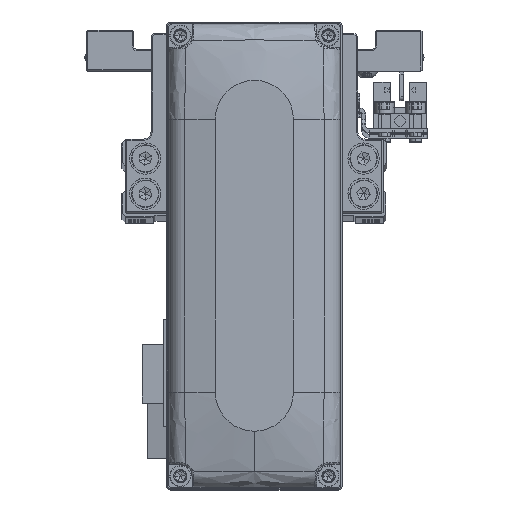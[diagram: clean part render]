
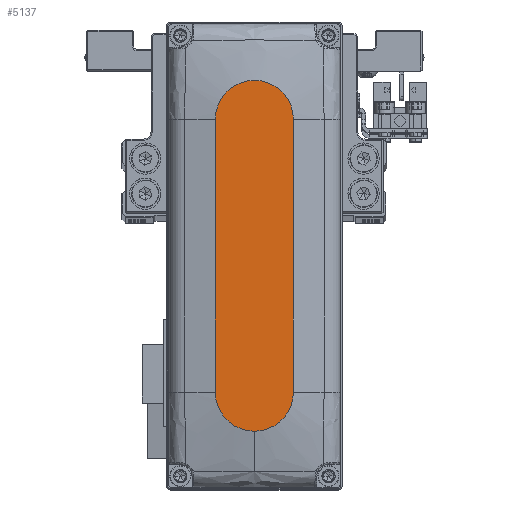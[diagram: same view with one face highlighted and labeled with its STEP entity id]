
A CAD part, top view. The second image highlights one B-rep face of the part: STEP entity #5137.
In plain terms, the highlighted planar face has unit normal (0, 0, 1).
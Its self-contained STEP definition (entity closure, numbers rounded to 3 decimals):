
#374 = CARTESIAN_POINT ( 'NONE',  ( 45., 0., 28. ) ) ;
#475 = CARTESIAN_POINT ( 'NONE',  ( -35., 0., 28. ) ) ;
#1636 = CIRCLE ( 'NONE', #25428, 10. ) ;
#2116 = VERTEX_POINT ( 'NONE', #31459 ) ;
#2289 = DIRECTION ( 'NONE',  ( 1., 0., 0. ) ) ;
#2532 = DIRECTION ( 'NONE',  ( 0., 0., 1. ) ) ;
#4364 = ORIENTED_EDGE ( 'NONE', *, *, #15117, .T. ) ;
#4801 = EDGE_CURVE ( 'NONE', #18032, #28282, #12774, .T. ) ;
#5137 = ADVANCED_FACE ( 'NONE', ( #34578 ), #5468, .T. ) ;
#5468 = PLANE ( 'NONE',  #35324 ) ;
#5564 = DIRECTION ( 'NONE',  ( 0., 0., 1. ) ) ;
#6740 = CARTESIAN_POINT ( 'NONE',  ( -35., 10., 28. ) ) ;
#9812 = CIRCLE ( 'NONE', #15211, 10. ) ;
#10402 = AXIS2_PLACEMENT_3D ( 'NONE', #31651, #2532, #15492 ) ;
#12774 = LINE ( 'NONE', #25747, #36657 ) ;
#13285 = VECTOR ( 'NONE', #19717, 1000. ) ;
#13430 = DIRECTION ( 'NONE',  ( 0., 0., 1. ) ) ;
#15117 = EDGE_CURVE ( 'NONE', #2116, #18032, #1636, .T. ) ;
#15211 = AXIS2_PLACEMENT_3D ( 'NONE', #34672, #5564, #18543 ) ;
#15492 = DIRECTION ( 'NONE',  ( 1., 0., 0. ) ) ;
#15999 = VERTEX_POINT ( 'NONE', #374 ) ;
#18020 = EDGE_LOOP ( 'NONE', ( #22328, #4364, #30924, #23554, #21369 ) ) ;
#18032 = VERTEX_POINT ( 'NONE', #25332 ) ;
#18447 = CARTESIAN_POINT ( 'NONE',  ( 0., 0., 28. ) ) ;
#18482 = EDGE_CURVE ( 'NONE', #28282, #15999, #28734, .T. ) ;
#18543 = DIRECTION ( 'NONE',  ( 1., 0., 0. ) ) ;
#18899 = CARTESIAN_POINT ( 'NONE',  ( 35., -10., 28. ) ) ;
#19586 = EDGE_CURVE ( 'NONE', #15999, #32690, #9812, .T. ) ;
#19717 = DIRECTION ( 'NONE',  ( -1., 0., 0. ) ) ;
#21369 = ORIENTED_EDGE ( 'NONE', *, *, #19586, .T. ) ;
#22328 = ORIENTED_EDGE ( 'NONE', *, *, #22401, .T. ) ;
#22401 = EDGE_CURVE ( 'NONE', #32690, #2116, #35870, .T. ) ;
#23554 = ORIENTED_EDGE ( 'NONE', *, *, #18482, .T. ) ;
#25051 = CARTESIAN_POINT ( 'NONE',  ( 35., 10., 28. ) ) ;
#25332 = CARTESIAN_POINT ( 'NONE',  ( -35., -10., 28. ) ) ;
#25428 = AXIS2_PLACEMENT_3D ( 'NONE', #475, #13430, #26407 ) ;
#25747 = CARTESIAN_POINT ( 'NONE',  ( -35., -10., 28. ) ) ;
#26407 = DIRECTION ( 'NONE',  ( 1., 0., 0. ) ) ;
#28282 = VERTEX_POINT ( 'NONE', #18899 ) ;
#28734 = CIRCLE ( 'NONE', #10402, 10. ) ;
#30924 = ORIENTED_EDGE ( 'NONE', *, *, #4801, .T. ) ;
#31403 = DIRECTION ( 'NONE',  ( 0., 0., 1. ) ) ;
#31459 = CARTESIAN_POINT ( 'NONE',  ( -35., 10., 28. ) ) ;
#31651 = CARTESIAN_POINT ( 'NONE',  ( 35., 0., 28. ) ) ;
#32690 = VERTEX_POINT ( 'NONE', #25051 ) ;
#34578 = FACE_OUTER_BOUND ( 'NONE', #18020, .T. ) ;
#34672 = CARTESIAN_POINT ( 'NONE',  ( 35., 0., 28. ) ) ;
#35324 = AXIS2_PLACEMENT_3D ( 'NONE', #18447, #31403, #2289 ) ;
#35870 = LINE ( 'NONE', #6740, #13285 ) ;
#36657 = VECTOR ( 'NONE', #38693, 1000. ) ;
#38693 = DIRECTION ( 'NONE',  ( 1., 0., 0. ) ) ;
